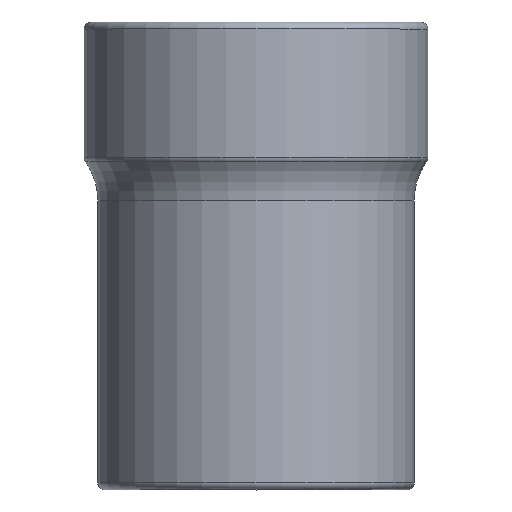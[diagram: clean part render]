
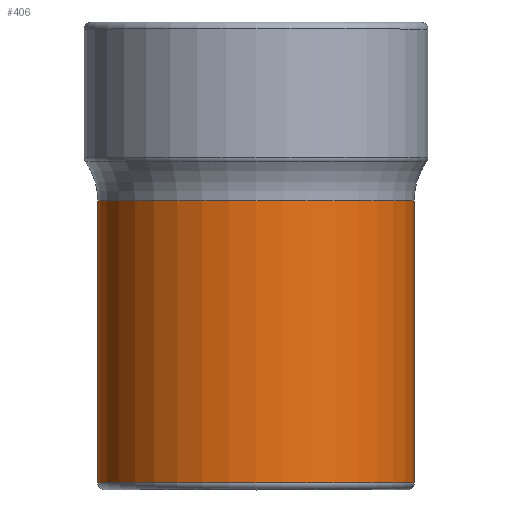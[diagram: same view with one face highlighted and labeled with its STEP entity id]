
A CAD part, top view. The second image highlights one B-rep face of the part: STEP entity #406.
In plain terms, the highlighted cylindrical face has radius 11.5 mm (diameter 23 mm), a full revolution.
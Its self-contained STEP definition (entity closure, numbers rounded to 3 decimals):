
#70=CYLINDRICAL_SURFACE($,#444,11.5);
#104=FACE_BOUND($,#152,.T.);
#120=FACE_OUTER_BOUND($,#151,.T.);
#151=EDGE_LOOP($,(#307));
#152=EDGE_LOOP($,(#308));
#183=CIRCLE($,#442,11.5);
#185=CIRCLE($,#445,11.5);
#208=VERTEX_POINT($,#641);
#210=VERTEX_POINT($,#646);
#247=EDGE_CURVE($,#208,#208,#183,.T.);
#249=EDGE_CURVE($,#210,#210,#185,.T.);
#307=ORIENTED_EDGE($,*,*,#249,.F.);
#308=ORIENTED_EDGE($,*,*,#247,.F.);
#406=ADVANCED_FACE($,(#120,#104),#70,.T.);
#442=AXIS2_PLACEMENT_3D($,#642,#503,#504);
#444=AXIS2_PLACEMENT_3D($,#645,#507,#508);
#445=AXIS2_PLACEMENT_3D($,#647,#509,#510);
#503=DIRECTION('center_axis',(0.,-1.,0.));
#504=DIRECTION('ref_axis',(1.,0.,0.));
#507=DIRECTION('center_axis',(0.,1.,0.));
#508=DIRECTION('ref_axis',(1.,0.,0.));
#509=DIRECTION('center_axis',(0.,1.,0.));
#510=DIRECTION('ref_axis',(1.,0.,0.));
#641=CARTESIAN_POINT('',(-11.5,0.5,0.));
#642=CARTESIAN_POINT('Origin',(0.,0.5,0.));
#645=CARTESIAN_POINT('Origin',(0.,0.,0.));
#646=CARTESIAN_POINT('',(-11.5,21.,0.));
#647=CARTESIAN_POINT('Origin',(0.,21.,0.));
